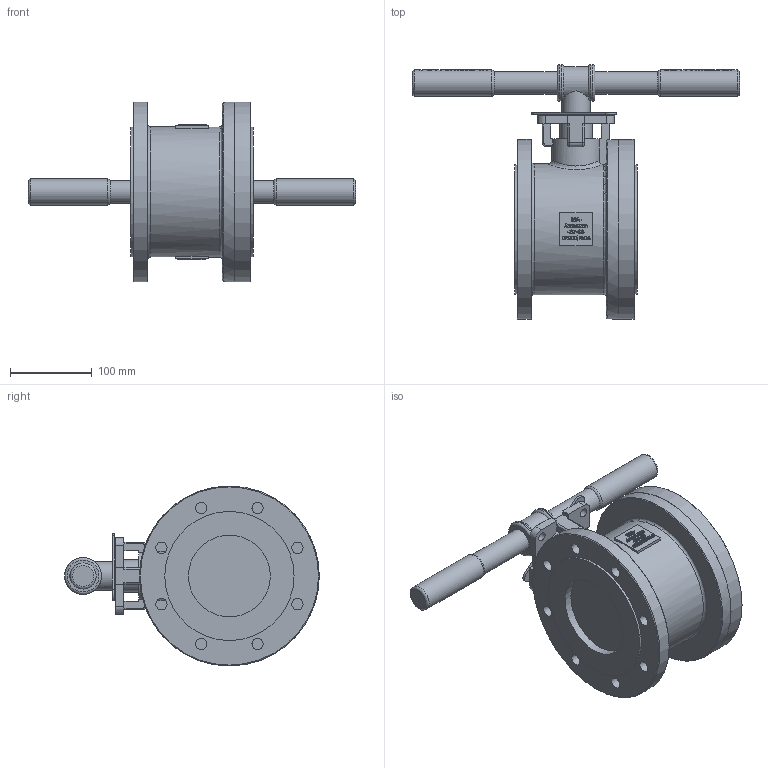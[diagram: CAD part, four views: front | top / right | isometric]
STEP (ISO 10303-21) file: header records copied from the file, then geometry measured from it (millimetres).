
FILE_DESCRIPTION((''),'2;1');
FILE_NAME('K:\Inventor\1 Artikel\12) Flanschen-Kugelhähne\12a) manuell\Econosto\437-GS, 7343\437-GS, DN100\437-GS, DN100, 3D\437-GS, DN100, PN16, HH, 3D.stp','2019-11-11T10:45:12',('claudia'),(''),'Autodesk Inventor 2013','Autodesk Inventor 2013','');
FILE_SCHEMA(('AUTOMOTIVE_DESIGN { 1 0 10303 214 1 1 1 1 }'));
Length unit declared in the file: millimetre
Products named in the file (1): Bauteil9
Bounding box: 400 x 311.5 x 220 mm (x, y, z)
Volume: 4312990.5 mm3; surface area: 297437.8 mm2
Topology: 1 solids, 1 shells, 1519 faces, 4228 edges, 2810 vertices
Faces by surface type: plane 758, bspline 625, cylinder 108, torus 16, cone 12
Full cylindrical faces by diameter (mm): 10.998 x1, 11 x4, 13.835 x16, 28 x2, 32 x2, 35 x1, 40 x1, 45 x2, 65 x1, 100 x2, 158 x2, 160 x1, 219.6 x1, 220 x2
Entity records: 109393 total; most frequent: CARTESIAN_POINT 74755, ORIENTED_EDGE 8086, DIRECTION 4632, EDGE_CURVE 4043, VERTEX_POINT 2717, VECTOR 2356, LINE 2356, EDGE_LOOP 1728
